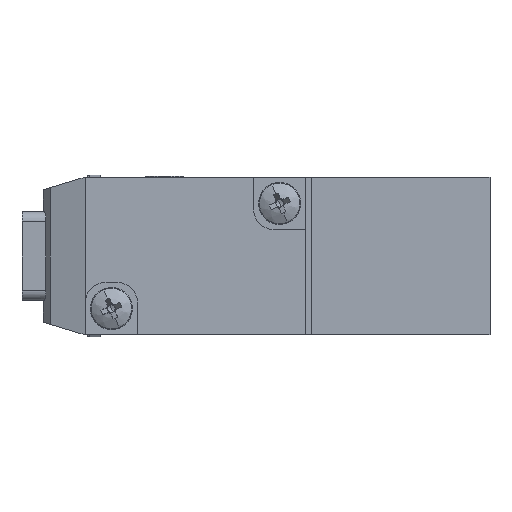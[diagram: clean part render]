
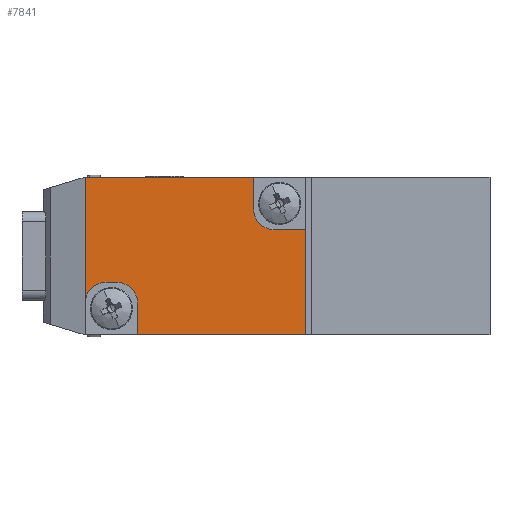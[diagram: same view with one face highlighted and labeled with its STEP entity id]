
A CAD part, left-side view. The second image highlights one B-rep face of the part: STEP entity #7841.
In plain terms, the highlighted planar face has unit normal (-1, 0, 0) as drawn and (1, 0, 0) by its records, which use the part's own axes.
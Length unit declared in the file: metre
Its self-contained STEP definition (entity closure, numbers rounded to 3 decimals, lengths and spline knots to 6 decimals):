
#174 = DIRECTION ( 'NONE',  ( 0., 0., -1. ) ) ;
#277 = VECTOR ( 'NONE', #7384, 1. ) ;
#411 = VERTEX_POINT ( 'NONE', #2778 ) ;
#668 = EDGE_CURVE ( 'NONE', #1550, #6599, #9030, .T. ) ;
#726 = CARTESIAN_POINT ( 'NONE',  ( 0.01825, -0.002, 0.0075 ) ) ;
#745 = CARTESIAN_POINT ( 'NONE',  ( 0.01825, -0.0075, -0.0045 ) ) ;
#748 = VECTOR ( 'NONE', #1376, 1. ) ;
#815 = ORIENTED_EDGE ( 'NONE', *, *, #668, .T. ) ;
#1376 = DIRECTION ( 'NONE',  ( 0., -1., 0. ) ) ;
#1550 = VERTEX_POINT ( 'NONE', #9941 ) ;
#1594 = CARTESIAN_POINT ( 'NONE',  ( 0.01825, -0.002, 0.0025 ) ) ;
#1632 = LINE ( 'NONE', #3344, #9771 ) ;
#1648 = DIRECTION ( 'NONE',  ( 0., 1., 0. ) ) ;
#1671 = VECTOR ( 'NONE', #1648, 1. ) ;
#1716 = DIRECTION ( 'NONE',  ( 0., 0., -1. ) ) ;
#1774 = FACE_OUTER_BOUND ( 'NONE', #3284, .T. ) ;
#1808 = CARTESIAN_POINT ( 'NONE',  ( 0.01825, 0.0035, 0. ) ) ;
#1923 = LINE ( 'NONE', #1594, #1671 ) ;
#2400 = LINE ( 'NONE', #7220, #277 ) ;
#2437 = CARTESIAN_POINT ( 'NONE',  ( 0.01825, 0.0085, -0.0075 ) ) ;
#2458 = ORIENTED_EDGE ( 'NONE', *, *, #2993, .T. ) ;
#2520 = VERTEX_POINT ( 'NONE', #10219 ) ;
#2537 = CARTESIAN_POINT ( 'NONE',  ( 0.01825, 0.0035, 0.0075 ) ) ;
#2540 = CARTESIAN_POINT ( 'NONE',  ( 0.01825, 0.0085, 0. ) ) ;
#2600 = EDGE_CURVE ( 'NONE', #411, #1550, #1632, .T. ) ;
#2619 = CARTESIAN_POINT ( 'NONE',  ( 0.01825, 0.0055, 0.0045 ) ) ;
#2632 = DIRECTION ( 'NONE',  ( 1., 0., 0. ) ) ;
#2656 = DIRECTION ( 'NONE',  ( 0., 0., 1. ) ) ;
#2778 = CARTESIAN_POINT ( 'NONE',  ( 0.01825, -0.0125, 0.0075 ) ) ;
#2993 = EDGE_CURVE ( 'NONE', #9574, #411, #3090, .T. ) ;
#3055 = DIRECTION ( 'NONE',  ( 0., 0., -1. ) ) ;
#3090 = LINE ( 'NONE', #726, #748 ) ;
#3098 = EDGE_CURVE ( 'NONE', #2520, #5840, #8413, .T. ) ;
#3110 = CARTESIAN_POINT ( 'NONE',  ( 0.01825, -0.0075, -0.0075 ) ) ;
#3273 = CARTESIAN_POINT ( 'NONE',  ( 0.01825, 0.0065, 0.0025 ) ) ;
#3284 = EDGE_LOOP ( 'NONE', ( #815, #8001, #5831, #5995, #9853, #8824, #9646, #9798, #6376, #2458, #6213 ) ) ;
#3344 = CARTESIAN_POINT ( 'NONE',  ( 0.01825, -0.0125, 0. ) ) ;
#3441 = CARTESIAN_POINT ( 'NONE',  ( 0.01825, -0.0095, -0.0045 ) ) ;
#3585 = EDGE_CURVE ( 'NONE', #10026, #6574, #4174, .T. ) ;
#3635 = DIRECTION ( 'NONE',  ( -1., 0., 0. ) ) ;
#3746 = LINE ( 'NONE', #2540, #5565 ) ;
#3753 = VECTOR ( 'NONE', #1716, 1. ) ;
#4125 = CARTESIAN_POINT ( 'NONE',  ( 0.01825, 0.0055, 0.0025 ) ) ;
#4174 = CIRCLE ( 'NONE', #4179, 0.002 ) ;
#4179 = AXIS2_PLACEMENT_3D ( 'NONE', #7347, #7371, #7387 ) ;
#4218 = DIRECTION ( 'NONE',  ( 0., 0., 1. ) ) ;
#4424 = CARTESIAN_POINT ( 'NONE',  ( 0.01825, 0.0085, 0.0045 ) ) ;
#4470 = VERTEX_POINT ( 'NONE', #2437 ) ;
#5065 = DIRECTION ( 'NONE',  ( 0., 1., 0. ) ) ;
#5130 = CARTESIAN_POINT ( 'NONE',  ( 0.01825, -0.011, -0.0025 ) ) ;
#5185 = PLANE ( 'NONE',  #8861 ) ;
#5530 = EDGE_CURVE ( 'NONE', #5840, #10026, #1923, .T. ) ;
#5565 = VECTOR ( 'NONE', #174, 1. ) ;
#5580 = EDGE_CURVE ( 'NONE', #9574, #2520, #9813, .T. ) ;
#5615 = DIRECTION ( 'NONE',  ( 0., 0., -1. ) ) ;
#5819 = VECTOR ( 'NONE', #5615, 1. ) ;
#5831 = ORIENTED_EDGE ( 'NONE', *, *, #6964, .T. ) ;
#5840 = VERTEX_POINT ( 'NONE', #4125 ) ;
#5995 = ORIENTED_EDGE ( 'NONE', *, *, #6013, .F. ) ;
#6013 = EDGE_CURVE ( 'NONE', #4470, #7631, #2400, .T. ) ;
#6213 = ORIENTED_EDGE ( 'NONE', *, *, #2600, .T. ) ;
#6376 = ORIENTED_EDGE ( 'NONE', *, *, #5580, .F. ) ;
#6574 = VERTEX_POINT ( 'NONE', #4424 ) ;
#6599 = VERTEX_POINT ( 'NONE', #7654 ) ;
#6702 = AXIS2_PLACEMENT_3D ( 'NONE', #2619, #2632, #2656 ) ;
#6793 = CIRCLE ( 'NONE', #9666, 0.002 ) ;
#6814 = VERTEX_POINT ( 'NONE', #745 ) ;
#6964 = EDGE_CURVE ( 'NONE', #6814, #7631, #7979, .T. ) ;
#7019 = EDGE_CURVE ( 'NONE', #6574, #4470, #3746, .T. ) ;
#7200 = VECTOR ( 'NONE', #5065, 1. ) ;
#7220 = CARTESIAN_POINT ( 'NONE',  ( 0.01825, -0.002, -0.0075 ) ) ;
#7347 = CARTESIAN_POINT ( 'NONE',  ( 0.01825, 0.0065, 0.0045 ) ) ;
#7371 = DIRECTION ( 'NONE',  ( 1., 0., 0. ) ) ;
#7384 = DIRECTION ( 'NONE',  ( 0., -1., 0. ) ) ;
#7387 = DIRECTION ( 'NONE',  ( 0., 0., 1. ) ) ;
#7631 = VERTEX_POINT ( 'NONE', #3110 ) ;
#7654 = CARTESIAN_POINT ( 'NONE',  ( 0.01825, -0.0095, -0.0025 ) ) ;
#7841 = ADVANCED_FACE ( 'NONE', ( #1774 ), #5185, .F. ) ;
#7979 = LINE ( 'NONE', #8777, #5819 ) ;
#8001 = ORIENTED_EDGE ( 'NONE', *, *, #8931, .F. ) ;
#8380 = DIRECTION ( 'NONE',  ( 0., 0., 1. ) ) ;
#8408 = CARTESIAN_POINT ( 'NONE',  ( 0.01825, -0.0125, -0.0075 ) ) ;
#8413 = CIRCLE ( 'NONE', #6702, 0.002 ) ;
#8777 = CARTESIAN_POINT ( 'NONE',  ( 0.01825, -0.0075, -0.006 ) ) ;
#8824 = ORIENTED_EDGE ( 'NONE', *, *, #3585, .F. ) ;
#8861 = AXIS2_PLACEMENT_3D ( 'NONE', #8408, #3635, #8380 ) ;
#8931 = EDGE_CURVE ( 'NONE', #6814, #6599, #6793, .T. ) ;
#8959 = DIRECTION ( 'NONE',  ( 1., 0., 0. ) ) ;
#9030 = LINE ( 'NONE', #5130, #7200 ) ;
#9574 = VERTEX_POINT ( 'NONE', #2537 ) ;
#9646 = ORIENTED_EDGE ( 'NONE', *, *, #5530, .F. ) ;
#9666 = AXIS2_PLACEMENT_3D ( 'NONE', #3441, #8959, #4218 ) ;
#9771 = VECTOR ( 'NONE', #3055, 1. ) ;
#9798 = ORIENTED_EDGE ( 'NONE', *, *, #3098, .F. ) ;
#9813 = LINE ( 'NONE', #1808, #3753 ) ;
#9853 = ORIENTED_EDGE ( 'NONE', *, *, #7019, .F. ) ;
#9941 = CARTESIAN_POINT ( 'NONE',  ( 0.01825, -0.0125, -0.0025 ) ) ;
#10026 = VERTEX_POINT ( 'NONE', #3273 ) ;
#10219 = CARTESIAN_POINT ( 'NONE',  ( 0.01825, 0.0035, 0.0045 ) ) ;
